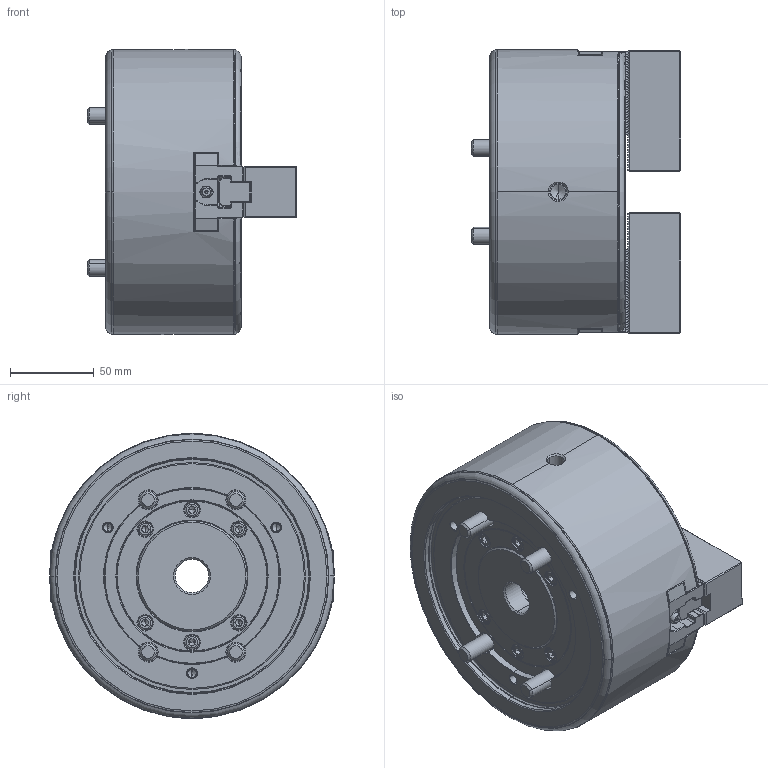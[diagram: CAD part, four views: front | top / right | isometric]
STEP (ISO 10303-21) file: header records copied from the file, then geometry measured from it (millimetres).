
FILE_DESCRIPTION (( 'STEP AP214' ), '1' );
FILE_NAME ('DEV-BRT06-HOL.STEP', '2024-10-02T05:12:41', ( '' ), ( '' ), 'SwSTEP 2.0', 'SolidWorks 2022', '' );
FILE_SCHEMA (( 'AUTOMOTIVE_DESIGN' ));
Length unit declared in the file: millimetre
Products named in the file (9): Bアナツキ M10×80; DEV-BRT06-HOL; BRT06-Nishi07 ドローナット(ｸﾘｯｸｽﾄｯﾌﾟ穴変更)_ﾃﾞﾌｫﾙﾄ(外観用); 61P806148-0(BBT206) カバー_BBT206-ﾃﾞﾌｫﾙﾄ; Part8^DEV-BRT06-クミタテ; Bアナツキボタン M5×10_デフォルト; BRT06-61P314547-4(SJ06A1T) ソフトジョー_SJ06A1T-ﾃﾞﾌｫﾙﾄ-Design; Bアナツキ M10×25; BR06-Nishi08 Tナット-Plus_61P447483-改正2 BB206 Tﾅｯﾄ-分割
Assembly tree (19 placements, depth 2):
  DEV-BRT06-HOL
    BRT06-Nishi07 ドローナット(ｸﾘｯｸｽﾄｯﾌﾟ穴変更)_ﾃﾞﾌｫﾙﾄ(外観用)
    BRT06-61P314547-4(SJ06A1T) ソフトジョー_SJ06A1T-ﾃﾞﾌｫﾙﾄ-Design  x2
    BR06-Nishi08 Tナット-Plus_61P447483-改正2 BB206 Tﾅｯﾄ-分割  x2
    61P806148-0(BBT206) カバー_BBT206-ﾃﾞﾌｫﾙﾄ
    Bアナツキ M10×25  x4
    Bアナツキボタン M5×10_デフォルト  x4
    Bアナツキ M10×80  x4
    Part8^DEV-BRT06-クミタテ
Bounding box: 125.2 x 170 x 170 mm (x, y, z)
Volume: 1685422.8 mm3; surface area: 221884.8 mm2
Topology: 19 solids, 29 shells, 2897 faces, 7693 edges, 4929 vertices
Faces by surface type: plane 1955, cylinder 417, cone 300, bspline 126, torus 91, sphere 8
Entity records: 75517 total; most frequent: CARTESIAN_POINT 18721, ORIENTED_EDGE 12074, DIRECTION 11072, EDGE_CURVE 6037, LINE 4378, VECTOR 4378, VERTEX_POINT 3908, AXIS2_PLACEMENT_3D 3347
